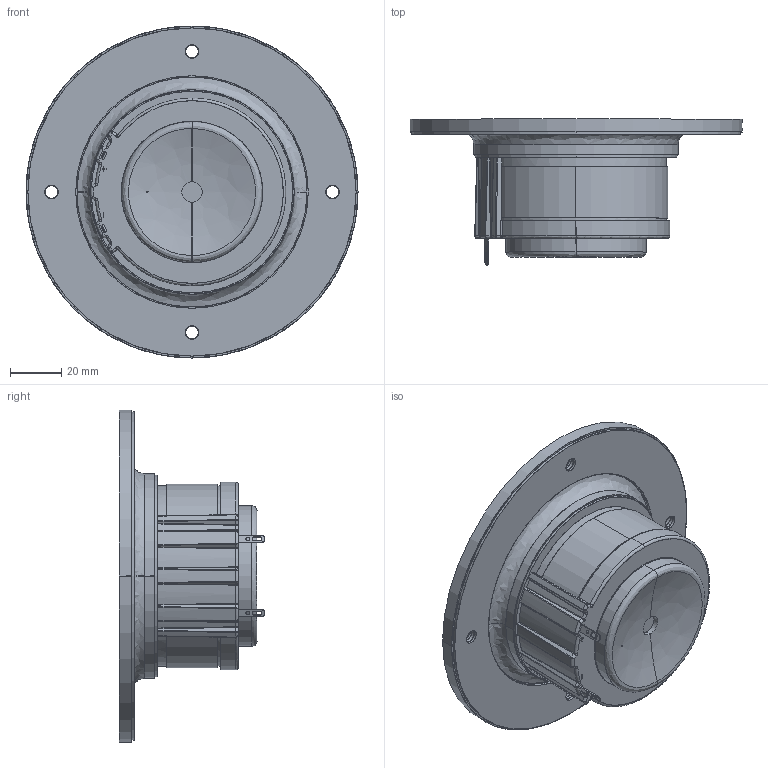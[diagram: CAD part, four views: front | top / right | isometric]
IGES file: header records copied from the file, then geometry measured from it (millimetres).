
Start section: SolidWorks IGES file using analytic representation for surfaces
Global section: file name: W:\TT\D29\D2905-990000\D2905-990000.IGS; native system: SolidWorks 2019; preprocessor: SolidWorks 2019; author: mhn; date: 201124.102307; units: millimetre
Bounding box: 130 x 57.07 x 130 mm (x, y, z)
Surface area: 50458.5 mm2 (no closed solid volume)
Topology: 0 solids, 0 shells, 472 faces, 8587 edges, 8532 vertices
Faces by surface type: bspline 247, revolution 225
